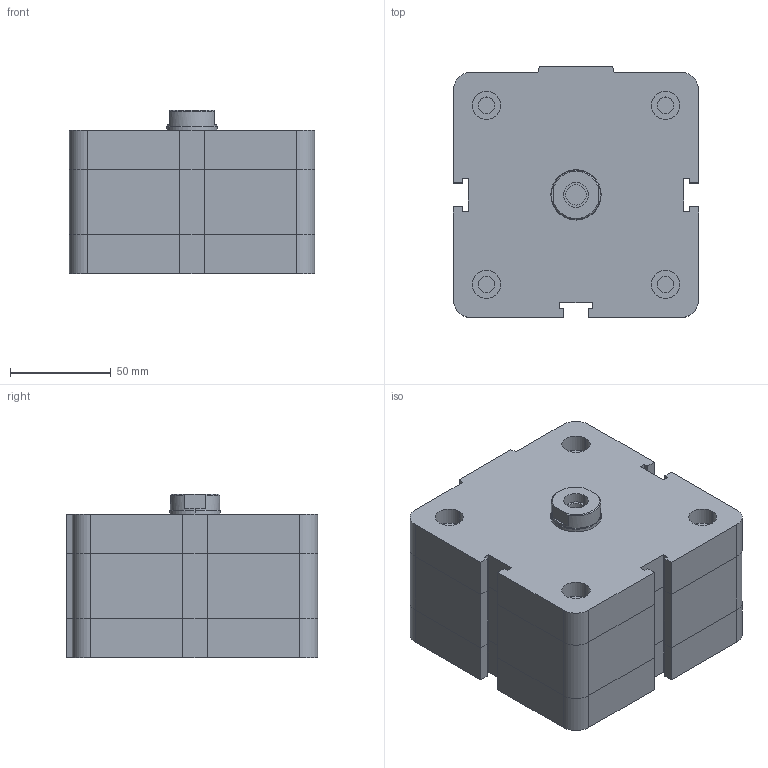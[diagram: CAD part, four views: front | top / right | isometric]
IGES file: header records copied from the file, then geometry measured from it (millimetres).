
Global section: file name: No Iges File Name specified; native system: Autodesk Inventor 2009; preprocessor: AutoDesk Inventor Iges Exporter R2009; author: rivolro1; date: 20081219.153440; units: millimetre
Bounding box: 122 x 125 x 81.5 mm (x, y, z)
Volume: 1028858.6 mm3; surface area: 81619.6 mm2
Topology: 2 solids, 2 shells, 187 faces, 410 edges, 248 vertices
Faces by surface type: plane 112, bspline 39, revolution 16, cylinder 16, cone 4
